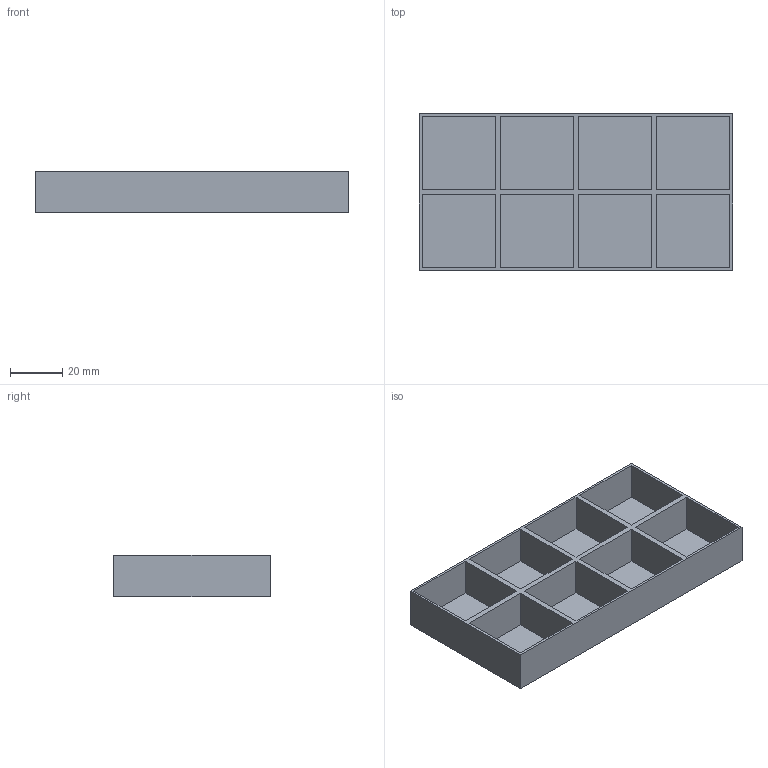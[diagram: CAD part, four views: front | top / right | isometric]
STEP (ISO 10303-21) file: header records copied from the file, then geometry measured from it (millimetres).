
FILE_DESCRIPTION (( 'STEP AP214' ), '1' );
FILE_NAME ('Base_fond_02 - LARGE.STEP', '2025-07-24T19:55:47', ( '' ), ( '' ), 'SwSTEP 2.0', 'SolidWorks 2024', '' );
FILE_SCHEMA (( 'AUTOMOTIVE_DESIGN' ));
Length unit declared in the file: millimetre
Products named in the file (1): Base_fond_02 - LARGE
Bounding box: 120 x 60 x 15.83 mm (x, y, z)
Volume: 20965.3 mm3; surface area: 33390.7 mm2
Topology: 1 solids, 1 shells, 46 faces, 108 edges, 72 vertices
Faces by surface type: plane 46
Entity records: 1315 total; most frequent: CARTESIAN_POINT 227, ORIENTED_EDGE 216, DIRECTION 202, LINE 108, VECTOR 108, EDGE_CURVE 108, VERTEX_POINT 72, EDGE_LOOP 54
